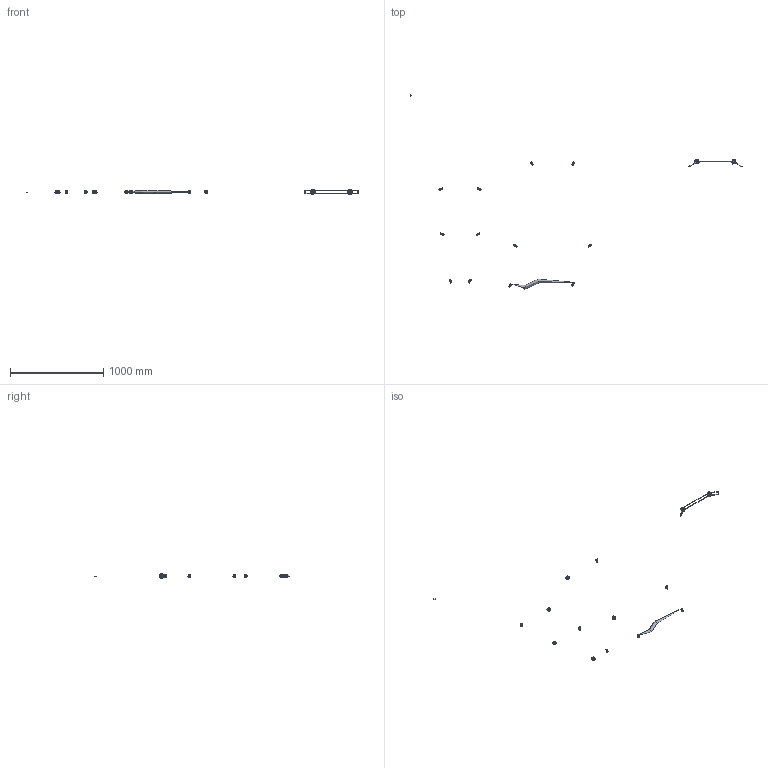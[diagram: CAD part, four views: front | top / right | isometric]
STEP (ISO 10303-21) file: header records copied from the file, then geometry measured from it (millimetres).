
FILE_DESCRIPTION(/* description */ (''),/* implementation_level */ '2;1');
FILE_NAME(/* name */ 'omikron',/* time_stamp */ '2025-12-18T14:38:33+01:00',/* author */ (''),/* organization */ (''),/* preprocessor_version */ 'ST-DEVELOPER v19.2',/* originating_system */ 'Rhino 8.25',/* authorisation */ '');
FILE_SCHEMA (('CONFIG_CONTROL_DESIGN'));
Length unit declared in the file: millimetre
Products named in the file (1): Document
Bounding box: 3551.22 x 2077.19 x 48.32 mm (x, y, z)
Volume: 3975011.3 mm3; surface area: 672974.9 mm2
Topology: 59 solids, 69 shells, 2154 faces, 6569 edges, 5513 vertices
Faces by surface type: cylinder 982, bspline 632, plane 540
Full cylindrical faces by diameter (mm): 1 x4, 1.5 x24, 1.65 x8, 3 x36, 3.2 x48, 5.1 x48, 5.5 x20, 5.75 x4, 6 x7, 6.35 x12, 10.5 x12, 27 x12, 37 x24, 40 x13, 48 x4
Entity records: 104602 total; most frequent: CARTESIAN_POINT 58955, ORIENTED_EDGE 11078, EDGE_CURVE 5546, DIRECTION 5419, B_SPLINE_CURVE_WITH_KNOTS 4066, VERTEX_POINT 3578, AXIS2_PLACEMENT_3D 3467, EDGE_LOOP 2470
